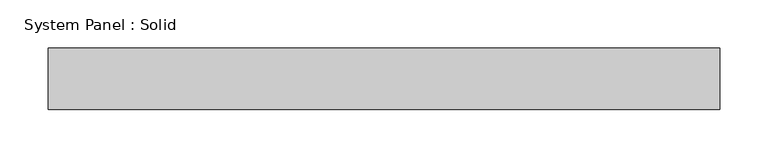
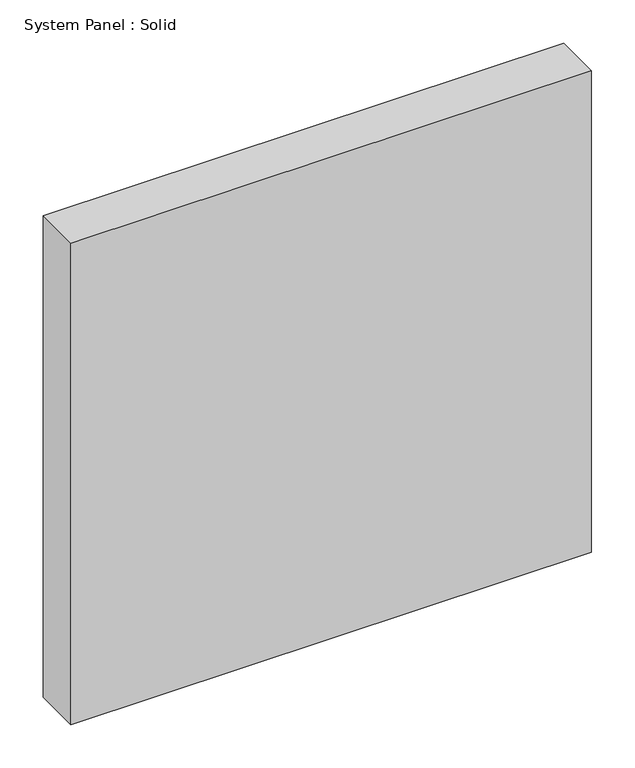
"""IFC4 building model written with IfcOpenShell, lengths in millimetres: plate geometry, System Panel : Solid."""

from ifc_helpers import new_model, si_unit, origin, origin_with_axes, place, context, project, spatial, polyline, outline, extrude, source, transform, mapped, element, save


def system_panel_solid_52285aff(model_context):
    return source(origin(), model_context, "Body", "SweptSolid", [
        extrude(outline(polyline([(346.86875, -19.05), (-346.86875, -19.05), (-346.86875, 44.45), (346.86875, 44.45), (346.86875, -19.05)])), origin_with_axes(), (0.0, 0.0, 1.0), 678.75),
    ])


if __name__ == "__main__":
    model = new_model("IFC4")
    model_context = context("Model", 3, world=origin())
    ifc_project = project(units=[si_unit("LENGTHUNIT", "METRE", prefix="MILLI")], contexts=[model_context])
    site = spatial("IfcSite", under=ifc_project)
    building = spatial("IfcBuilding", under=site)
    placement = place(None, origin())
    system_panel_solid_shape = system_panel_solid_52285aff(model_context)
    element("IfcPlate", 1, ObjectType="System Panel : Solid", at=placement, inside=building, context=model_context, shape_type="MappedRepresentation", body=[
        mapped(system_panel_solid_shape, transform((0.0, 0.0, 0.0), x_axis=(1.0, 0.0, 0.0), y_axis=(0.0, 1.0, 0.0), z_axis=(0.0, 0.0, 1.0))),
    ])
    save(model, "model.ifc")
